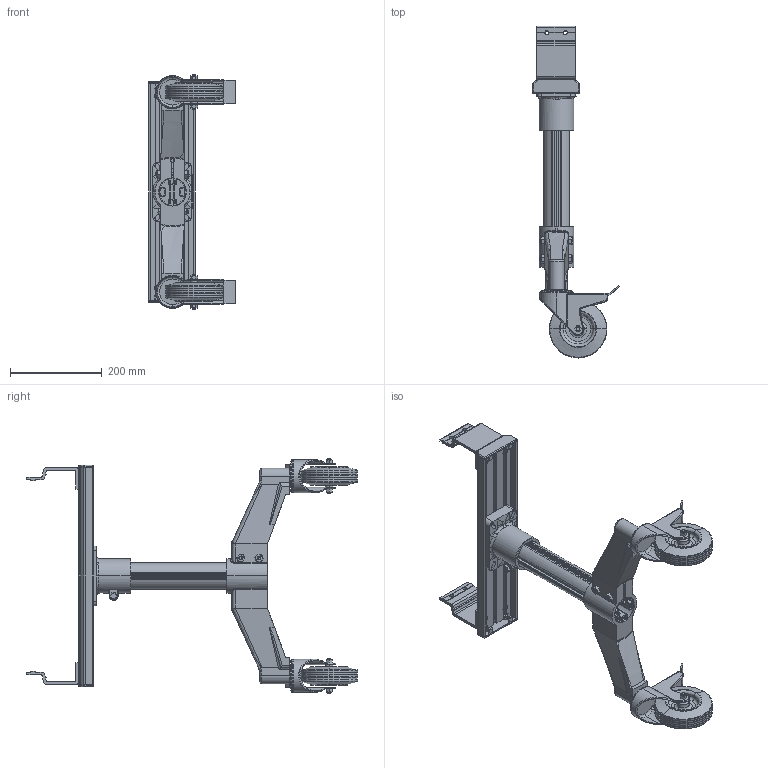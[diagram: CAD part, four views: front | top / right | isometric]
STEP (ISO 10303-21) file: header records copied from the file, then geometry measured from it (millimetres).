
FILE_DESCRIPTION (( 'STEP AP214' ), '1' );
FILE_NAME ('F2-1500-P2R.STEP', '2010-03-11T09:05:24', ( '.' ), ( '' ), 'SwSTEP 2.0', 'SolidWorks 2009', '' );
FILE_SCHEMA (( 'AUTOMOTIVE_DESIGN' ));
Length unit declared in the file: millimetre
Products named in the file (1): F2-1500-P2R
Bounding box: 188.97 x 721.98 x 509.6 mm (x, y, z)
Surface area: 818249.1 mm2 (no closed solid volume)
Topology: 0 solids, 12 shells, 1049 faces, 2963 edges, 1926 vertices
Faces by surface type: plane 439, cylinder 368, torus 149, bspline 55, cone 34, sphere 4
Entity records: 56046 total; most frequent: CARTESIAN_POINT 17819, DIRECTION 5633, ORIENTED_EDGE 5341, EDGE_CURVE 2955, AXIS2_PLACEMENT_3D 2017, VERTEX_POINT 1926, VECTOR 1599, LINE 1599
